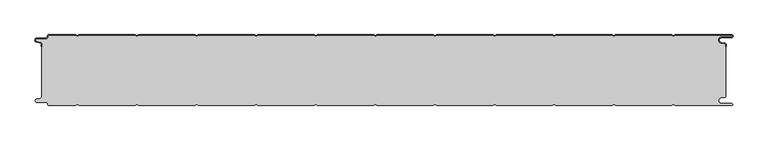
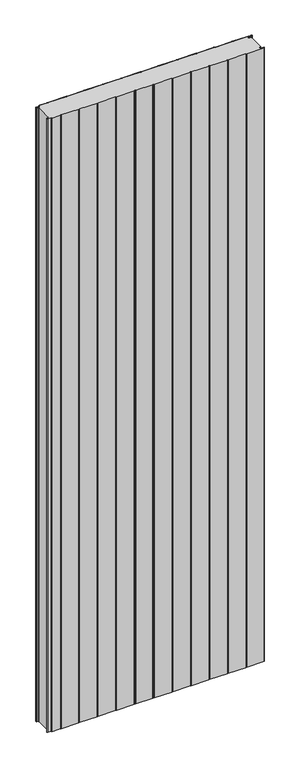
"""IFC4 building model written with IfcOpenShell, lengths in millimetres: plate geometry, PM1_Curtain-Panel_Perfil-Frigorífico : ACH_PM1_Panel-Acústico-Sectorización_120M."""

from ifc_helpers import new_model, si_unit, point, frame, frame_2d, origin, origin_with_axes, place, context, project, spatial, polyline, circle_curve, trimmed, segment, composite_curve, outline, extrude, source, transform, mapped, element, save
from ifc_brep_helpers import plane_surface, cylinder_surface, revolved_surface, advanced_brep


def plate_efb13df9(model_context):
    return source(origin(), model_context, "Body", "SolidModel", [
        advanced_brep(
        [(-575.0, -15.878557, 3500.0), (-575.0, -20.0, 3500.0), (-574.2, -20.0, 3500.0), (-574.2, -15.878557, 3500.0), (-576.370137, -13.1503208, 3500.0), (-582.529863, -11.728236, 3500.0), (-581.9, -6.2, 3500.0), (-566.4, -6.2, 3500.0), (-563.6, -3.4, 3500.0), (-563.6, -2.0, 3500.0), (-562.4, -0.8, 3500.0), (-517.3143588, -0.8, 3500.0), (-514.4, -2.482606, 3500.0), (-511.4856412, -0.8, 3500.0), (-417.3143588, -0.8, 3500.0), (-414.4, -2.482606, 3500.0), (-411.4856412, -0.8, 3500.0), (-317.3143588, -0.8, 3500.0), (-314.4, -2.482606, 3500.0), (-311.4856412, -0.8, 3500.0), (-217.3143588, -0.8, 3500.0), (-214.4, -2.482606, 3500.0), (-211.4856412, -0.8, 3500.0), (-117.3143588, -0.8, 3500.0), (-114.4, -2.482606, 3500.0), (-111.4856412, -0.8, 3500.0), (-17.3143588, -0.8, 3500.0), (-14.4, -2.482606, 3500.0), (-11.4856412, -0.8, 3500.0), (82.6856412, -0.8, 3500.0), (85.6, -2.482606, 3500.0), (88.5143588, -0.8, 3500.0), (182.6856412, -0.8, 3500.0), (185.6, -2.482606, 3500.0), (188.5143588, -0.8, 3500.0), (282.6856412, -0.8, 3500.0), (285.6, -2.482606, 3500.0), (288.5143588, -0.8, 3500.0), (382.6856412, -0.8, 3500.0), (385.6, -2.482606, 3500.0), (388.5143588, -0.8, 3500.0), (482.6856412, -0.8, 3500.0), (485.6, -2.482606, 3500.0), (488.5143588, -0.8, 3500.0), (583.1, -0.8, 3500.0), (583.1, -4.2, 3500.0), (566.1, -4.2, 3500.0), (565.2664884, -13.7270771, 3500.0), (571.7125669, -14.8636953, 3500.0), (573.2, -16.6363492, 3500.0), (573.2, -20.0, 3500.0), (574.0, -20.0, 3500.0), (574.0, -16.6363492, 3500.0), (571.8514855, -14.0758491, 3500.0), (565.405407, -12.939231, 3500.0), (566.1, -5.0, 3500.0), (583.1, -5.0, 3500.0), (585.6, -2.5, 3500.0), (583.1, 0.0, 3500.0), (488.2999995, 0.0, 3500.0), (485.6, -1.5588455, 3500.0), (482.9000005, 0.0, 3500.0), (388.2999995, 0.0, 3500.0), (385.6, -1.5588455, 3500.0), (382.9000005, 0.0, 3500.0), (288.2999995, 0.0, 3500.0), (285.6, -1.5588455, 3500.0), (282.9000005, 0.0, 3500.0), (188.2999995, 0.0, 3500.0), (185.6, -1.5588455, 3500.0), (182.9000005, 0.0, 3500.0), (88.2999995, 0.0, 3500.0), (85.6, -1.5588455, 3500.0), (82.9000005, 0.0, 3500.0), (-11.7000005, 0.0, 3500.0), (-14.4, -1.5588455, 3500.0), (-17.0999995, 0.0, 3500.0), (-111.7000005, 0.0, 3500.0), (-114.4, -1.5588455, 3500.0), (-117.0999995, 0.0, 3500.0), (-211.7000005, 0.0, 3500.0), (-214.4, -1.5588455, 3500.0), (-217.0999995, 0.0, 3500.0), (-311.7000005, 0.0, 3500.0), (-314.4, -1.5588455, 3500.0), (-317.0999995, 0.0, 3500.0), (-411.7000005, 0.0, 3500.0), (-414.4, -1.5588455, 3500.0), (-417.0999995, 0.0, 3500.0), (-511.7000005, 0.0, 3500.0), (-514.4, -1.5588455, 3500.0), (-517.0999995, 0.0, 3500.0), (-562.4, 0.0, 3500.0), (-564.4, -2.0, 3500.0), (-564.4, -3.4, 3500.0), (-566.4, -5.4, 3500.0), (-581.9, -5.4, 3500.0), (-582.7098239, -12.5077322, 3500.0), (-576.5500979, -13.929817, 3500.0), (-575.0, -15.878557, 0.0), (-576.5500978, -13.9298169, 0.0), (-582.7098239, -12.507732, 0.0), (-581.9, -5.4, 0.0), (-566.4, -5.4, 0.0), (-564.4, -3.4, 0.0), (-564.4, -2.0, 0.0), (-562.4, 0.0, 0.0), (-517.0999995, 0.0, 0.0), (-514.4, -1.5588455, 0.0), (-511.7000005, 0.0, 0.0), (-417.0999995, 0.0, 0.0), (-414.4, -1.5588455, 0.0), (-411.7000005, 0.0, 0.0), (-317.0999995, 0.0, 0.0), (-314.4, -1.5588455, 0.0), (-311.7000005, 0.0, 0.0), (-217.0999995, 0.0, 0.0), (-214.4, -1.5588455, 0.0), (-211.7000005, 0.0, 0.0), (-117.0999995, 0.0, 0.0), (-114.4, -1.5588455, 0.0), (-111.7000005, 0.0, 0.0), (-17.0999995, 0.0, 0.0), (-14.4, -1.5588455, 0.0), (-11.7000005, 0.0, 0.0), (82.9000005, 0.0, 0.0), (85.6, -1.5588455, 0.0), (88.2999995, 0.0, 0.0), (182.9000005, 0.0, 0.0), (185.6, -1.5588455, 0.0), (188.2999995, 0.0, 0.0), (282.9000005, 0.0, 0.0), (285.6, -1.5588455, 0.0), (288.2999995, 0.0, 0.0), (382.9000005, 0.0, 0.0), (385.6, -1.5588455, 0.0), (388.2999995, 0.0, 0.0), (482.9000005, 0.0, 0.0), (485.6, -1.5588455, 0.0), (488.2999995, 0.0, 0.0), (583.1, 0.0, 0.0), (585.6, -2.5, 0.0), (583.1, -5.0, 0.0), (566.1, -5.0, 0.0), (565.405407, -12.939231, 0.0), (571.8514855, -14.0758491, 0.0), (574.0, -16.6363492, 0.0), (574.0, -20.0, 0.0), (573.2, -20.0, 0.0), (573.2, -16.6363492, 0.0), (571.7125669, -14.8636953, 0.0), (565.2664884, -13.7270772, 0.0), (566.1, -4.2, 0.0), (583.1, -4.2, 0.0), (583.1, -0.8, 0.0), (488.5143588, -0.8, 0.0), (485.6, -2.482606, 0.0), (482.6856412, -0.8, 0.0), (388.5143588, -0.8, 0.0), (385.6, -2.482606, 0.0), (382.6856412, -0.8, 0.0), (288.5143588, -0.8, 0.0), (285.6, -2.482606, 0.0), (282.6856412, -0.8, 0.0), (188.5143588, -0.8, 0.0), (185.6, -2.482606, 0.0), (182.6856412, -0.8, 0.0), (88.5143588, -0.8, 0.0), (85.6, -2.482606, 0.0), (82.6856412, -0.8, 0.0), (-11.4856412, -0.8, 0.0), (-14.4, -2.482606, 0.0), (-17.3143588, -0.8, 0.0), (-111.4856412, -0.8, 0.0), (-114.4, -2.482606, 0.0), (-117.3143588, -0.8, 0.0), (-211.4856412, -0.8, 0.0), (-214.4, -2.482606, 0.0), (-217.3143588, -0.8, 0.0), (-311.4856412, -0.8, 0.0), (-314.4, -2.482606, 0.0), (-317.3143588, -0.8, 0.0), (-411.4856412, -0.8, 0.0), (-414.4, -2.482606, 0.0), (-417.3143588, -0.8, 0.0), (-511.4856412, -0.8, 0.0), (-514.4, -2.482606, 0.0), (-517.3143588, -0.8, 0.0), (-562.4, -0.8, 0.0), (-563.6, -2.0, 0.0), (-563.6, -3.4, 0.0), (-566.4, -6.2, 0.0), (-581.9, -6.2, 0.0), (-582.529863, -11.7282362, 0.0), (-576.370137, -13.150321, 0.0), (-574.2, -15.878557, 0.0), (-574.2, -20.0, 0.0), (-575.0, -20.0, 0.0)],
        [
            (0, 1),
            (1, 2),
            (2, 3),
            (3, 4, circle_curve(frame((-577.0, -15.878557, 3500.0), z_axis=(0.0, 0.0, 1.0), x_axis=(1.0, 0.0, 0.0)), 2.8)),
            (4, 5),
            (5, 6, circle_curve(frame((-581.9, -9.0, 3500.0), z_axis=(0.0, 0.0, -1.0), x_axis=(1.0, 0.0, 0.0)), 2.8)),
            (6, 7),
            (7, 8, circle_curve(frame((-566.4, -3.4, 3500.0), z_axis=(0.0, 0.0, 1.0), x_axis=(1.0, 0.0, 0.0)), 2.8)),
            (8, 9),
            (9, 10, circle_curve(frame((-562.4, -2.0, 3500.0), z_axis=(0.0, 0.0, -1.0), x_axis=(1.0, 0.0, 0.0)), 1.2)),
            (10, 11),
            (11, 12),
            (12, 13),
            (13, 14),
            (14, 15),
            (15, 16),
            (16, 17),
            (17, 18),
            (18, 19),
            (19, 20),
            (20, 21),
            (21, 22),
            (22, 23),
            (23, 24),
            (24, 25),
            (25, 26),
            (26, 27),
            (27, 28),
            (28, 29),
            (29, 30),
            (30, 31),
            (31, 32),
            (32, 33),
            (33, 34),
            (34, 35),
            (35, 36),
            (36, 37),
            (37, 38),
            (38, 39),
            (39, 40),
            (40, 41),
            (41, 42),
            (42, 43),
            (43, 44),
            (44, 45, circle_curve(frame((583.1, -2.5, 3500.0), z_axis=(0.0, 0.0, -1.0), x_axis=(1.0, 0.0, 0.0)), 1.7)),
            (45, 46),
            (46, 47, circle_curve(frame((566.1, -9.0, 3500.0), z_axis=(0.0, 0.0, 1.0), x_axis=(1.0, 0.0, 0.0)), 4.8)),
            (47, 48),
            (48, 49, circle_curve(frame((571.4, -16.6363492, 3500.0), z_axis=(0.0, 0.0, -1.0), x_axis=(1.0, 0.0, 0.0)), 1.8)),
            (49, 50),
            (50, 51),
            (51, 52),
            (52, 53, circle_curve(frame((571.4, -16.6363492, 3500.0), z_axis=(0.0, 0.0, 1.0), x_axis=(1.0, 0.0, 0.0)), 2.6)),
            (53, 54),
            (54, 55, circle_curve(frame((566.1, -9.0, 3500.0), z_axis=(0.0, 0.0, -1.0), x_axis=(1.0, 0.0, 0.0)), 4.0)),
            (55, 56),
            (56, 57, circle_curve(frame((583.1, -2.5, 3500.0), z_axis=(0.0, 0.0, 1.0), x_axis=(1.0, 0.0, 0.0)), 2.5)),
            (57, 58, circle_curve(frame((583.1, -2.5, 3500.0), z_axis=(0.0, 0.0, 1.0), x_axis=(1.0, 0.0, 0.0)), 2.5)),
            (58, 59),
            (59, 60),
            (60, 61),
            (61, 62),
            (62, 63),
            (63, 64),
            (64, 65),
            (65, 66),
            (66, 67),
            (67, 68),
            (68, 69),
            (69, 70),
            (70, 71),
            (71, 72),
            (72, 73),
            (73, 74),
            (74, 75),
            (75, 76),
            (76, 77),
            (77, 78),
            (78, 79),
            (79, 80),
            (80, 81),
            (81, 82),
            (82, 83),
            (83, 84),
            (84, 85),
            (85, 86),
            (86, 87),
            (87, 88),
            (88, 89),
            (89, 90),
            (90, 91),
            (91, 92),
            (92, 93, circle_curve(frame((-562.4, -2.0, 3500.0), z_axis=(0.0, 0.0, 1.0), x_axis=(1.0, 0.0, 0.0)), 2.0)),
            (93, 94),
            (94, 95, circle_curve(frame((-566.4, -3.4, 3500.0), z_axis=(0.0, 0.0, -1.0), x_axis=(1.0, 0.0, 0.0)), 2.0)),
            (95, 96),
            (96, 97, circle_curve(frame((-581.9, -9.0, 3500.0), z_axis=(0.0, 0.0, 1.0), x_axis=(1.0, 0.0, 0.0)), 3.6)),
            (97, 98),
            (98, 0, circle_curve(frame((-577.0, -15.878557, 3500.0), z_axis=(0.0, 0.0, -1.0), x_axis=(1.0, 0.0, 0.0)), 2.0)),
            (99, 100, circle_curve(frame((-577.0, -15.878557, 0.0), z_axis=(0.0, 0.0, 1.0), x_axis=(1.0, 0.0, 0.0)), 2.0)),
            (100, 101),
            (101, 102, circle_curve(frame((-581.9, -9.0, 0.0), z_axis=(0.0, 0.0, -1.0), x_axis=(1.0, 0.0, 0.0)), 3.6)),
            (102, 103),
            (103, 104, circle_curve(frame((-566.4, -3.4, 0.0), z_axis=(0.0, 0.0, 1.0), x_axis=(1.0, 0.0, 0.0)), 2.0)),
            (104, 105),
            (105, 106, circle_curve(frame((-562.4, -2.0, 0.0), z_axis=(0.0, 0.0, -1.0), x_axis=(1.0, 0.0, 0.0)), 2.0)),
            (106, 107),
            (107, 108),
            (108, 109),
            (109, 110),
            (110, 111),
            (111, 112),
            (112, 113),
            (113, 114),
            (114, 115),
            (115, 116),
            (116, 117),
            (117, 118),
            (118, 119),
            (119, 120),
            (120, 121),
            (121, 122),
            (122, 123),
            (123, 124),
            (124, 125),
            (125, 126),
            (126, 127),
            (127, 128),
            (128, 129),
            (129, 130),
            (130, 131),
            (131, 132),
            (132, 133),
            (133, 134),
            (134, 135),
            (135, 136),
            (136, 137),
            (137, 138),
            (138, 139),
            (139, 140),
            (140, 141, circle_curve(frame((583.1, -2.5, 0.0), z_axis=(0.0, 0.0, -1.0), x_axis=(1.0, 0.0, 0.0)), 2.5)),
            (141, 142, circle_curve(frame((583.1, -2.5, 0.0), z_axis=(0.0, 0.0, -1.0), x_axis=(1.0, 0.0, 0.0)), 2.5)),
            (142, 143),
            (143, 144, circle_curve(frame((566.1, -9.0, 0.0), z_axis=(0.0, 0.0, 1.0), x_axis=(1.0, 0.0, 0.0)), 4.0)),
            (144, 145),
            (145, 146, circle_curve(frame((571.4, -16.6363492, 0.0), z_axis=(0.0, 0.0, -1.0), x_axis=(1.0, 0.0, 0.0)), 2.6)),
            (146, 147),
            (147, 148),
            (148, 149),
            (149, 150, circle_curve(frame((571.4, -16.6363492, 0.0), z_axis=(0.0, 0.0, 1.0), x_axis=(1.0, 0.0, 0.0)), 1.8)),
            (150, 151),
            (151, 152, circle_curve(frame((566.1, -9.0, 0.0), z_axis=(0.0, 0.0, -1.0), x_axis=(1.0, 0.0, 0.0)), 4.8)),
            (152, 153),
            (153, 154, circle_curve(frame((583.1, -2.5, 0.0), z_axis=(0.0, 0.0, 1.0), x_axis=(1.0, 0.0, 0.0)), 1.7)),
            (154, 155),
            (155, 156),
            (156, 157),
            (157, 158),
            (158, 159),
            (159, 160),
            (160, 161),
            (161, 162),
            (162, 163),
            (163, 164),
            (164, 165),
            (165, 166),
            (166, 167),
            (167, 168),
            (168, 169),
            (169, 170),
            (170, 171),
            (171, 172),
            (172, 173),
            (173, 174),
            (174, 175),
            (175, 176),
            (176, 177),
            (177, 178),
            (178, 179),
            (179, 180),
            (180, 181),
            (181, 182),
            (182, 183),
            (183, 184),
            (184, 185),
            (185, 186),
            (186, 187),
            (187, 188),
            (188, 189, circle_curve(frame((-562.4, -2.0, 0.0), z_axis=(0.0, 0.0, 1.0), x_axis=(1.0, 0.0, 0.0)), 1.2)),
            (189, 190),
            (190, 191, circle_curve(frame((-566.4, -3.4, 0.0), z_axis=(0.0, 0.0, -1.0), x_axis=(1.0, 0.0, 0.0)), 2.8)),
            (191, 192),
            (192, 193, circle_curve(frame((-581.9, -9.0, 0.0), z_axis=(0.0, 0.0, 1.0), x_axis=(1.0, 0.0, 0.0)), 2.8)),
            (193, 194),
            (194, 195, circle_curve(frame((-577.0, -15.878557, 0.0), z_axis=(0.0, 0.0, -1.0), x_axis=(1.0, 0.0, 0.0)), 2.8)),
            (195, 196),
            (196, 197),
            (197, 99),
            (0, 99),
            (197, 1),
            (196, 2),
            (195, 3),
            (194, 4),
            (193, 5),
            (192, 6),
            (191, 7),
            (190, 8),
            (189, 9),
            (188, 10),
            (187, 11),
            (186, 12),
            (185, 13),
            (184, 14),
            (183, 15),
            (182, 16),
            (181, 17),
            (180, 18),
            (179, 19),
            (178, 20),
            (177, 21),
            (176, 22),
            (175, 23),
            (174, 24),
            (173, 25),
            (172, 26),
            (171, 27),
            (170, 28),
            (169, 29),
            (168, 30),
            (167, 31),
            (166, 32),
            (165, 33),
            (164, 34),
            (163, 35),
            (162, 36),
            (161, 37),
            (160, 38),
            (159, 39),
            (158, 40),
            (157, 41),
            (156, 42),
            (155, 43),
            (154, 44),
            (153, 45),
            (152, 46),
            (151, 47),
            (150, 48),
            (149, 49),
            (148, 50),
            (147, 51),
            (146, 52),
            (145, 53),
            (144, 54),
            (143, 55),
            (142, 56),
            (140, 58),
            (139, 59),
            (138, 60),
            (137, 61),
            (136, 62),
            (135, 63),
            (134, 64),
            (133, 65),
            (132, 66),
            (131, 67),
            (130, 68),
            (129, 69),
            (128, 70),
            (127, 71),
            (126, 72),
            (125, 73),
            (124, 74),
            (123, 75),
            (122, 76),
            (121, 77),
            (120, 78),
            (119, 79),
            (118, 80),
            (117, 81),
            (116, 82),
            (115, 83),
            (114, 84),
            (113, 85),
            (112, 86),
            (111, 87),
            (110, 88),
            (109, 89),
            (108, 90),
            (107, 91),
            (106, 92),
            (105, 93),
            (104, 94),
            (103, 95),
            (102, 96),
            (101, 97),
            (100, 98),
        ],
        [
            plane_surface(frame((-575.0, 0.0, 3500.0), z_axis=(0.0, 0.0, 1.0), x_axis=(0.0, 1.0, 0.0))),
            plane_surface(frame((-575.0, 0.0, 0.0), z_axis=(0.0, 0.0, -1.0), x_axis=(0.0, 1.0, 0.0))),
            plane_surface(frame((-575.0, -15.878557, 3500.0), z_axis=(-1.0, 0.0, 0.0), x_axis=(0.0, 0.0, -1.0))),
            plane_surface(frame((-575.0, -20.0, 3500.0), z_axis=(0.0, -1.0, 0.0), x_axis=(0.0, 0.0, -1.0))),
            plane_surface(frame((-574.2, -20.0, 3500.0), z_axis=(1.0, 0.0, 0.0), x_axis=(0.0, 0.0, -1.0))),
            cylinder_surface(frame((-577.0, -15.878557, 3500.0), z_axis=(0.0, 0.0, 1.0), x_axis=(1.0, 0.0, 0.0)), 2.8),
            plane_surface(frame((-576.370137, -13.150321, 3500.0), z_axis=(0.22495108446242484, 0.9743700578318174, 0.0), x_axis=(0.0, 0.0, -1.0))),
            revolved_surface(polyline([(-579.1, -9.0, 0.0), (-579.1, -9.0, 3500.0)]), (-581.9, -9.0, 3500.0), (0.0, 0.0, -1.0)),
            plane_surface(frame((-581.9, -6.2, 3500.0), z_axis=(0.0, -1.0, 0.0), x_axis=(0.0, 0.0, -1.0))),
            cylinder_surface(frame((-566.4, -3.4, 3500.0), z_axis=(0.0, 0.0, 1.0), x_axis=(1.0, 0.0, 0.0)), 2.8),
            plane_surface(frame((-563.6, -3.4, 3500.0), z_axis=(1.0, 0.0, 0.0), x_axis=(0.0, 0.0, -1.0))),
            revolved_surface(polyline([(-561.1999999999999, -2.0, 0.0), (-561.1999999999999, -2.0, 3500.0)]), (-562.4, -2.0, 3500.0), (0.0, 0.0, -1.0)),
            plane_surface(frame((-562.4, -0.8, 3500.0), z_axis=(0.0, -1.0, 0.0), x_axis=(0.0, 0.0, -1.0))),
            plane_surface(frame((-517.3143588, -0.8, 3500.0), z_axis=(-0.5000000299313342, -0.8660253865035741, 0.0), x_axis=(0.0, 0.0, -1.0))),
            plane_surface(frame((-514.4, -2.482606, 3500.0), z_axis=(0.5000000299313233, -0.8660253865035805, 0.0), x_axis=(0.0, 0.0, -1.0))),
            plane_surface(frame((-511.4856412, -0.8, 3500.0), z_axis=(0.0, -1.0, 0.0), x_axis=(0.0, 0.0, -1.0))),
            plane_surface(frame((-417.3143588, -0.8, 3500.0), z_axis=(-0.5000000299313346, -0.8660253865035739, 0.0), x_axis=(0.0, 0.0, -1.0))),
            plane_surface(frame((-414.4, -2.482606, 3500.0), z_axis=(0.5000000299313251, -0.8660253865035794, 0.0), x_axis=(0.0, 0.0, -1.0))),
            plane_surface(frame((-411.4856412, -0.8, 3500.0), z_axis=(0.0, -1.0, 0.0), x_axis=(0.0, 0.0, -1.0))),
            plane_surface(frame((-317.3143588, -0.8, 3500.0), z_axis=(-0.5000000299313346, -0.866025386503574, 0.0), x_axis=(0.0, 0.0, -1.0))),
            plane_surface(frame((-314.4, -2.482606, 3500.0), z_axis=(0.5000000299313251, -0.8660253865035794, 0.0), x_axis=(0.0, 0.0, -1.0))),
            plane_surface(frame((-311.4856412, -0.8, 3500.0), z_axis=(0.0, -1.0, 0.0), x_axis=(0.0, 0.0, -1.0))),
            plane_surface(frame((-217.3143588, -0.8, 3500.0), z_axis=(-0.5000000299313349, -0.8660253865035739, 0.0), x_axis=(0.0, 0.0, -1.0))),
            plane_surface(frame((-214.4, -2.482606, 3500.0), z_axis=(0.5000000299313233, -0.8660253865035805, 0.0), x_axis=(0.0, 0.0, -1.0))),
            plane_surface(frame((-211.4856412, -0.8, 3500.0), z_axis=(0.0, -1.0, 0.0), x_axis=(0.0, 0.0, -1.0))),
            plane_surface(frame((-117.3143588, -0.8, 3500.0), z_axis=(-0.5000000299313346, -0.866025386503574, 0.0), x_axis=(0.0, 0.0, -1.0))),
            plane_surface(frame((-114.4, -2.482606, 3500.0), z_axis=(0.5000000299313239, -0.8660253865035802, 0.0), x_axis=(0.0, 0.0, -1.0))),
            plane_surface(frame((-111.4856412, -0.8, 3500.0), z_axis=(0.0, -1.0, 0.0), x_axis=(0.0, 0.0, -1.0))),
            plane_surface(frame((-17.3143588, -0.8, 3500.0), z_axis=(-0.5000000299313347, -0.8660253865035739, 0.0), x_axis=(0.0, 0.0, -1.0))),
            plane_surface(frame((-14.4, -2.482606, 3500.0), z_axis=(0.5000000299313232, -0.8660253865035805, 0.0), x_axis=(0.0, 0.0, -1.0))),
            plane_surface(frame((-11.4856412, -0.8, 3500.0), z_axis=(0.0, -1.0, 0.0), x_axis=(0.0, 0.0, -1.0))),
            plane_surface(frame((82.6856412, -0.8, 3500.0), z_axis=(-0.5000000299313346, -0.866025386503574, 0.0), x_axis=(0.0, 0.0, -1.0))),
            plane_surface(frame((85.6, -2.482606, 3500.0), z_axis=(0.5000000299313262, -0.8660253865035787, 0.0), x_axis=(0.0, 0.0, -1.0))),
            plane_surface(frame((88.5143588, -0.8, 3500.0), z_axis=(0.0, -1.0, 0.0), x_axis=(0.0, 0.0, -1.0))),
            plane_surface(frame((182.6856412, -0.8, 3500.0), z_axis=(-0.5000000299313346, -0.8660253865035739, 0.0), x_axis=(0.0, 0.0, -1.0))),
            plane_surface(frame((185.6, -2.482606, 3500.0), z_axis=(0.5000000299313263, -0.8660253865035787, 0.0), x_axis=(0.0, 0.0, -1.0))),
            plane_surface(frame((188.5143588, -0.8, 3500.0), z_axis=(0.0, -1.0, 0.0), x_axis=(0.0, 0.0, -1.0))),
            plane_surface(frame((282.6856412, -0.8, 3500.0), z_axis=(-0.5000000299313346, -0.8660253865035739, 0.0), x_axis=(0.0, 0.0, -1.0))),
            plane_surface(frame((285.6, -2.482606, 3500.0), z_axis=(0.5000000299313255, -0.8660253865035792, 0.0), x_axis=(0.0, 0.0, -1.0))),
            plane_surface(frame((288.5143588, -0.8, 3500.0), z_axis=(0.0, -1.0, 0.0), x_axis=(0.0, 0.0, -1.0))),
            plane_surface(frame((382.6856412, -0.8, 3500.0), z_axis=(-0.5000000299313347, -0.8660253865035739, 0.0), x_axis=(0.0, 0.0, -1.0))),
            plane_surface(frame((385.6, -2.482606, 3500.0), z_axis=(0.5000000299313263, -0.8660253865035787, 0.0), x_axis=(0.0, 0.0, -1.0))),
            plane_surface(frame((388.5143588, -0.8, 3500.0), z_axis=(0.0, -1.0, 0.0), x_axis=(0.0, 0.0, -1.0))),
            plane_surface(frame((482.6856412, -0.8, 3500.0), z_axis=(-0.5000000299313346, -0.866025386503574, 0.0), x_axis=(0.0, 0.0, -1.0))),
            plane_surface(frame((485.6, -2.482606, 3500.0), z_axis=(0.5000000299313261, -0.8660253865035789, 0.0), x_axis=(0.0, 0.0, -1.0))),
            plane_surface(frame((535.6, -0.8, 3500.0), z_axis=(0.0, -1.0, 0.0), x_axis=(0.0, 0.0, -1.0))),
            revolved_surface(polyline([(584.8000000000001, -2.5, 0.0), (584.8000000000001, -2.5, 3500.0)]), (583.1, -2.5, 3500.0), (0.0, 0.0, -1.0)),
            plane_surface(frame((583.1, -4.2, 3500.0), z_axis=(0.0, 1.0, 0.0), x_axis=(0.0, 0.0, -1.0))),
            cylinder_surface(frame((566.1, -9.0, 3500.0), z_axis=(0.0, 0.0, 1.0), x_axis=(1.0, 0.0, 0.0)), 4.8),
            plane_surface(frame((565.2664884, -13.7270772, 3500.0), z_axis=(-0.17364825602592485, -0.9848077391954, 0.0), x_axis=(0.0, 0.0, -1.0))),
            revolved_surface(polyline([(573.1999999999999, -16.6363492, 0.0), (573.1999999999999, -16.6363492, 3500.0)]), (571.4, -16.6363492, 3500.0), (0.0, 0.0, -1.0)),
            plane_surface(frame((573.2, -16.6363492, 3500.0), z_axis=(-1.0, 0.0, 0.0), x_axis=(0.0, 0.0, -1.0))),
            plane_surface(frame((573.2, -20.0, 3500.0), z_axis=(0.0, -1.0, 0.0), x_axis=(0.0, 0.0, -1.0))),
            plane_surface(frame((574.0, -20.0, 3500.0), z_axis=(1.0, 0.0, 0.0), x_axis=(0.0, 0.0, -1.0))),
            cylinder_surface(frame((571.4, -16.6363492, 3500.0), z_axis=(0.0, 0.0, 1.0), x_axis=(1.0, 0.0, 0.0)), 2.6),
            plane_surface(frame((571.8514855, -14.0758491, 3500.0), z_axis=(0.1736482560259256, 0.9848077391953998, 0.0), x_axis=(0.0, 0.0, -1.0))),
            revolved_surface(polyline([(570.1, -9.0, 0.0), (570.1, -9.0, 3500.0)]), (566.1, -9.0, 3500.0), (0.0, 0.0, -1.0)),
            plane_surface(frame((566.1, -5.0, 3500.0), z_axis=(0.0, -1.0, 0.0), x_axis=(0.0, 0.0, -1.0))),
            cylinder_surface(frame((583.1, -2.5, 3500.0), z_axis=(0.0, 0.0, 1.0), x_axis=(1.0, 0.0, 0.0)), 2.5),
            plane_surface(frame((535.6, 0.0, 3500.0), z_axis=(0.0, 1.0, 0.0), x_axis=(0.0, 0.0, -1.0))),
            plane_surface(frame((488.2999995, 0.0, 3500.0), z_axis=(-0.5000000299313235, 0.8660253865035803, 0.0), x_axis=(0.0, 0.0, -1.0))),
            plane_surface(frame((485.6, -1.5588455, 3500.0), z_axis=(0.5000000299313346, 0.8660253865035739, 0.0), x_axis=(0.0, 0.0, -1.0))),
            plane_surface(frame((482.9000005, 0.0, 3500.0), z_axis=(0.0, 1.0, 0.0), x_axis=(0.0, 0.0, -1.0))),
            plane_surface(frame((388.2999995, 0.0, 3500.0), z_axis=(-0.5000000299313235, 0.8660253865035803, 0.0), x_axis=(0.0, 0.0, -1.0))),
            plane_surface(frame((385.6, -1.5588455, 3500.0), z_axis=(0.5000000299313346, 0.8660253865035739, 0.0), x_axis=(0.0, 0.0, -1.0))),
            plane_surface(frame((382.9000005, 0.0, 3500.0), z_axis=(0.0, 1.0, 0.0), x_axis=(0.0, 0.0, -1.0))),
            plane_surface(frame((288.2999995, 0.0, 3500.0), z_axis=(-0.5000000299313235, 0.8660253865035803, 0.0), x_axis=(0.0, 0.0, -1.0))),
            plane_surface(frame((285.6, -1.5588455, 3500.0), z_axis=(0.5000000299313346, 0.8660253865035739, 0.0), x_axis=(0.0, 0.0, -1.0))),
            plane_surface(frame((282.9000005, 0.0, 3500.0), z_axis=(0.0, 1.0, 0.0), x_axis=(0.0, 0.0, -1.0))),
            plane_surface(frame((188.2999995, 0.0, 3500.0), z_axis=(-0.5000000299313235, 0.8660253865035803, 0.0), x_axis=(0.0, 0.0, -1.0))),
            plane_surface(frame((185.6, -1.5588455, 3500.0), z_axis=(0.5000000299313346, 0.8660253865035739, 0.0), x_axis=(0.0, 0.0, -1.0))),
            plane_surface(frame((182.9000005, 0.0, 3500.0), z_axis=(0.0, 1.0, 0.0), x_axis=(0.0, 0.0, -1.0))),
            plane_surface(frame((88.2999995, 0.0, 3500.0), z_axis=(-0.5000000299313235, 0.8660253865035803, 0.0), x_axis=(0.0, 0.0, -1.0))),
            plane_surface(frame((85.6, -1.5588455, 3500.0), z_axis=(0.5000000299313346, 0.8660253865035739, 0.0), x_axis=(0.0, 0.0, -1.0))),
            plane_surface(frame((82.9000005, 0.0, 3500.0), z_axis=(0.0, 1.0, 0.0), x_axis=(0.0, 0.0, -1.0))),
            plane_surface(frame((-11.7000005, 0.0, 3500.0), z_axis=(-0.5000000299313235, 0.8660253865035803, 0.0), x_axis=(0.0, 0.0, -1.0))),
            plane_surface(frame((-14.4, -1.5588455, 3500.0), z_axis=(0.5000000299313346, 0.8660253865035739, 0.0), x_axis=(0.0, 0.0, -1.0))),
            plane_surface(frame((-17.0999995, 0.0, 3500.0), z_axis=(0.0, 1.0, 0.0), x_axis=(0.0, 0.0, -1.0))),
            plane_surface(frame((-111.7000005, 0.0, 3500.0), z_axis=(-0.5000000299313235, 0.8660253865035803, 0.0), x_axis=(0.0, 0.0, -1.0))),
            plane_surface(frame((-114.4, -1.5588455, 3500.0), z_axis=(0.5000000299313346, 0.8660253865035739, 0.0), x_axis=(0.0, 0.0, -1.0))),
            plane_surface(frame((-117.0999995, 0.0, 3500.0), z_axis=(0.0, 1.0, 0.0), x_axis=(0.0, 0.0, -1.0))),
            plane_surface(frame((-211.7000005, 0.0, 3500.0), z_axis=(-0.5000000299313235, 0.8660253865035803, 0.0), x_axis=(0.0, 0.0, -1.0))),
            plane_surface(frame((-214.4, -1.5588455, 3500.0), z_axis=(0.5000000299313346, 0.8660253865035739, 0.0), x_axis=(0.0, 0.0, -1.0))),
            plane_surface(frame((-217.0999995, 0.0, 3500.0), z_axis=(0.0, 1.0, 0.0), x_axis=(0.0, 0.0, -1.0))),
            plane_surface(frame((-311.7000005, 0.0, 3500.0), z_axis=(-0.5000000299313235, 0.8660253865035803, 0.0), x_axis=(0.0, 0.0, -1.0))),
            plane_surface(frame((-314.4, -1.5588455, 3500.0), z_axis=(0.5000000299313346, 0.8660253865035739, 0.0), x_axis=(0.0, 0.0, -1.0))),
            plane_surface(frame((-317.0999995, 0.0, 3500.0), z_axis=(0.0, 1.0, 0.0), x_axis=(0.0, 0.0, -1.0))),
            plane_surface(frame((-411.7000005, 0.0, 3500.0), z_axis=(-0.5000000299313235, 0.8660253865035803, 0.0), x_axis=(0.0, 0.0, -1.0))),
            plane_surface(frame((-414.4, -1.5588455, 3500.0), z_axis=(0.5000000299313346, 0.8660253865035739, 0.0), x_axis=(0.0, 0.0, -1.0))),
            plane_surface(frame((-417.0999995, 0.0, 3500.0), z_axis=(0.0, 1.0, 0.0), x_axis=(0.0, 0.0, -1.0))),
            plane_surface(frame((-511.7000005, 0.0, 3500.0), z_axis=(-0.5000000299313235, 0.8660253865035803, 0.0), x_axis=(0.0, 0.0, -1.0))),
            plane_surface(frame((-514.4, -1.5588455, 3500.0), z_axis=(0.5000000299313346, 0.8660253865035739, 0.0), x_axis=(0.0, 0.0, -1.0))),
            plane_surface(frame((-517.0999995, 0.0, 3500.0), z_axis=(0.0, 1.0, 0.0), x_axis=(0.0, 0.0, -1.0))),
            cylinder_surface(frame((-562.4, -2.0, 3500.0), z_axis=(0.0, 0.0, 1.0), x_axis=(1.0, 0.0, 0.0)), 2.0),
            plane_surface(frame((-564.4, -2.0, 3500.0), z_axis=(-1.0, 0.0, 0.0), x_axis=(0.0, 0.0, -1.0))),
            revolved_surface(polyline([(-564.4, -3.4, 0.0), (-564.4, -3.4, 3500.0)]), (-566.4, -3.4, 3500.0), (0.0, 0.0, -1.0)),
            plane_surface(frame((-566.4, -5.4, 3500.0), z_axis=(0.0, 1.0, 0.0), x_axis=(0.0, 0.0, -1.0))),
            cylinder_surface(frame((-581.9, -9.0, 3500.0), z_axis=(0.0, 0.0, 1.0), x_axis=(1.0, 0.0, 0.0)), 3.6),
            plane_surface(frame((-582.7098239, -12.507732, 3500.0), z_axis=(-0.22495108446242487, -0.9743700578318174, 0.0), x_axis=(0.0, 0.0, -1.0))),
            revolved_surface(polyline([(-575.0, -15.878557, 0.0), (-575.0, -15.878557, 3500.0)]), (-577.0, -15.878557, 3500.0), (0.0, 0.0, -1.0)),
        ],
        [
            (0, [[1, 2, 3, 4, 5, 6, 7, 8, 9, 10, 11, 12, 13, 14, 15, 16, 17, 18, 19, 20, 21, 22, 23, 24, 25, 26, 27, 28, 29, 30, 31, 32, 33, 34, 35, 36, 37, 38, 39, 40, 41, 42, 43, 44, 45, 46, 47, 48, 49, 50, 51, 52, 53, 54, 55, 56, 57, 58, 59, 60, 61, 62, 63, 64, 65, 66, 67, 68, 69, 70, 71, 72, 73, 74, 75, 76, 77, 78, 79, 80, 81, 82, 83, 84, 85, 86, 87, 88, 89, 90, 91, 92, 93, 94, 95, 96, 97, 98, 99]]),
            (1, [[100, 101, 102, 103, 104, 105, 106, 107, 108, 109, 110, 111, 112, 113, 114, 115, 116, 117, 118, 119, 120, 121, 122, 123, 124, 125, 126, 127, 128, 129, 130, 131, 132, 133, 134, 135, 136, 137, 138, 139, 140, 141, 142, 143, 144, 145, 146, 147, 148, 149, 150, 151, 152, 153, 154, 155, 156, 157, 158, 159, 160, 161, 162, 163, 164, 165, 166, 167, 168, 169, 170, 171, 172, 173, 174, 175, 176, 177, 178, 179, 180, 181, 182, 183, 184, 185, 186, 187, 188, 189, 190, 191, 192, 193, 194, 195, 196, 197, 198]]),
            (2, [[-1, 199, -198, 200]]),
            (3, [[-2, -200, -197, 201]]),
            (4, [[-3, -201, -196, 202]]),
            (5, [[-4, -202, -195, 203]]),
            (6, [[-5, -203, -194, 204]]),
            (7, [[-6, -204, -193, 205]]),
            (8, [[-7, -205, -192, 206]]),
            (9, [[-8, -206, -191, 207]]),
            (10, [[-9, -207, -190, 208]]),
            (11, [[-10, -208, -189, 209]]),
            (12, [[-11, -209, -188, 210]]),
            (13, [[-12, -210, -187, 211]]),
            (14, [[-13, -211, -186, 212]]),
            (15, [[-14, -212, -185, 213]]),
            (16, [[-15, -213, -184, 214]]),
            (17, [[-16, -214, -183, 215]]),
            (18, [[-17, -215, -182, 216]]),
            (19, [[-18, -216, -181, 217]]),
            (20, [[-19, -217, -180, 218]]),
            (21, [[-20, -218, -179, 219]]),
            (22, [[-21, -219, -178, 220]]),
            (23, [[-22, -220, -177, 221]]),
            (24, [[-23, -221, -176, 222]]),
            (25, [[-24, -222, -175, 223]]),
            (26, [[-25, -223, -174, 224]]),
            (27, [[-26, -224, -173, 225]]),
            (28, [[-27, -225, -172, 226]]),
            (29, [[-28, -226, -171, 227]]),
            (30, [[-29, -227, -170, 228]]),
            (31, [[-30, -228, -169, 229]]),
            (32, [[-31, -229, -168, 230]]),
            (33, [[-32, -230, -167, 231]]),
            (34, [[-33, -231, -166, 232]]),
            (35, [[-34, -232, -165, 233]]),
            (36, [[-35, -233, -164, 234]]),
            (37, [[-36, -234, -163, 235]]),
            (38, [[-37, -235, -162, 236]]),
            (39, [[-38, -236, -161, 237]]),
            (40, [[-39, -237, -160, 238]]),
            (41, [[-40, -238, -159, 239]]),
            (42, [[-41, -239, -158, 240]]),
            (43, [[-42, -240, -157, 241]]),
            (44, [[-43, -241, -156, 242]]),
            (45, [[-44, -242, -155, 243]]),
            (46, [[-45, -243, -154, 244]]),
            (47, [[-46, -244, -153, 245]]),
            (48, [[-47, -245, -152, 246]]),
            (49, [[-48, -246, -151, 247]]),
            (50, [[-49, -247, -150, 248]]),
            (51, [[-50, -248, -149, 249]]),
            (52, [[-51, -249, -148, 250]]),
            (53, [[-52, -250, -147, 251]]),
            (54, [[-53, -251, -146, 252]]),
            (55, [[-54, -252, -145, 253]]),
            (56, [[-55, -253, -144, 254]]),
            (57, [[-56, -254, -143, 255]]),
            (58, [[-255, -142, -141, 256, -58, -57]]),
            (59, [[-59, -256, -140, 257]]),
            (60, [[-60, -257, -139, 258]]),
            (61, [[-61, -258, -138, 259]]),
            (62, [[-62, -259, -137, 260]]),
            (63, [[-63, -260, -136, 261]]),
            (64, [[-64, -261, -135, 262]]),
            (65, [[-65, -262, -134, 263]]),
            (66, [[-66, -263, -133, 264]]),
            (67, [[-67, -264, -132, 265]]),
            (68, [[-68, -265, -131, 266]]),
            (69, [[-69, -266, -130, 267]]),
            (70, [[-70, -267, -129, 268]]),
            (71, [[-71, -268, -128, 269]]),
            (72, [[-72, -269, -127, 270]]),
            (73, [[-73, -270, -126, 271]]),
            (74, [[-74, -271, -125, 272]]),
            (75, [[-75, -272, -124, 273]]),
            (76, [[-76, -273, -123, 274]]),
            (77, [[-77, -274, -122, 275]]),
            (78, [[-78, -275, -121, 276]]),
            (79, [[-79, -276, -120, 277]]),
            (80, [[-80, -277, -119, 278]]),
            (81, [[-81, -278, -118, 279]]),
            (82, [[-82, -279, -117, 280]]),
            (83, [[-83, -280, -116, 281]]),
            (84, [[-84, -281, -115, 282]]),
            (85, [[-85, -282, -114, 283]]),
            (86, [[-86, -283, -113, 284]]),
            (87, [[-87, -284, -112, 285]]),
            (88, [[-88, -285, -111, 286]]),
            (89, [[-89, -286, -110, 287]]),
            (90, [[-90, -287, -109, 288]]),
            (91, [[-91, -288, -108, 289]]),
            (92, [[-92, -289, -107, 290]]),
            (93, [[-93, -290, -106, 291]]),
            (94, [[-94, -291, -105, 292]]),
            (95, [[-95, -292, -104, 293]]),
            (96, [[-96, -293, -103, 294]]),
            (97, [[-97, -294, -102, 295]]),
            (98, [[-98, -295, -101, 296]]),
            (99, [[-99, -296, -100, -199]]),
        ],
    ),
        extrude(outline(composite_curve([segment(polyline([(-574.2, -104.1214426), (-574.2, -15.8785573)]), True, "CONTINUOUS"), segment(trimmed(circle_curve(frame_2d((-577.0, -15.8785573)), 2.8), [point((-574.2, -15.8785573))], [point((-576.370137, -13.1503212))], True, "CARTESIAN"), True, "CONTINUOUS"), segment(polyline([(-576.370137, -13.1503212), (-582.5298631, -11.7282362)]), True, "CONTINUOUS"), segment(trimmed(circle_curve(frame_2d((-581.9, -9.0)), 2.8), [point((-582.5298631, -11.7282362))], [point((-581.9, -6.2))], False, "CARTESIAN"), True, "CONTINUOUS"), segment(polyline([(-581.9, -6.2), (-566.4000001, -6.2)]), True, "CONTINUOUS"), segment(trimmed(circle_curve(frame_2d((-566.4000001, -3.4)), 2.8), [point((-566.4000001, -6.2))], [point((-563.6000001, -3.4))], True, "CARTESIAN"), True, "CONTINUOUS"), segment(polyline([(-563.6000001, -3.4), (-563.6000001, -2.0)]), True, "CONTINUOUS"), segment(trimmed(circle_curve(frame_2d((-562.4000001, -2.0)), 1.2), [point((-563.6000001, -2.0))], [point((-562.4000001, -0.8))], False, "CARTESIAN"), True, "CONTINUOUS"), segment(polyline([(-562.4000001, -0.8), (-517.3143589, -0.8), (-514.4000001, -2.482606), (-511.4856412, -0.8), (-417.3143589, -0.8), (-414.4000001, -2.482606), (-411.4856412, -0.8), (-317.3143589, -0.8), (-314.4000001, -2.482606), (-311.4856412, -0.8), (-217.3143589, -0.8), (-214.4000001, -2.482606), (-211.4856412, -0.8), (-117.3143589, -0.8), (-114.4000001, -2.482606), (-111.4856412, -0.8), (-17.3143589, -0.8), (-14.4000001, -2.482606), (-11.4856412, -0.8), (82.6856411, -0.8), (85.5999999, -2.482606), (88.5143588, -0.8), (182.6856411, -0.8), (185.5999999, -2.482606), (188.5143588, -0.8), (282.6856411, -0.8), (285.5999999, -2.482606), (288.5143588, -0.8), (382.6856411, -0.8), (385.5999999, -2.482606), (388.5143588, -0.8), (482.6856411, -0.8), (485.6, -2.482606), (488.5143588, -0.8), (583.1, -0.8)]), True, "CONTINUOUS"), segment(trimmed(circle_curve(frame_2d((583.1, -2.5)), 1.7), [point((583.1, -0.8))], [point((583.1, -4.2))], False, "CARTESIAN"), True, "CONTINUOUS"), segment(polyline([(583.1, -4.2), (566.1, -4.2)]), True, "CONTINUOUS"), segment(trimmed(circle_curve(frame_2d((566.1, -9.0)), 4.8), [point((566.1, -4.2))], [point((565.2664883, -13.7270771))], True, "CARTESIAN"), True, "CONTINUOUS"), segment(polyline([(565.2664883, -13.7270771), (571.7125668, -14.8636953)]), True, "CONTINUOUS"), segment(trimmed(circle_curve(frame_2d((571.4, -16.6363492)), 1.8), [point((571.7125668, -14.8636953))], [point((573.2, -16.6363492))], False, "CARTESIAN"), True, "CONTINUOUS"), segment(polyline([(573.2, -16.6363492), (573.2, -103.3636508)]), True, "CONTINUOUS"), segment(trimmed(circle_curve(frame_2d((571.4, -103.3636508)), 1.8), [point((573.2, -103.3636508))], [point((571.7125668, -105.1363047))], False, "CARTESIAN"), True, "CONTINUOUS"), segment(polyline([(571.7125668, -105.1363047), (565.2664883, -106.2729229)]), True, "CONTINUOUS"), segment(trimmed(circle_curve(frame_2d((566.1, -111.0)), 4.8), [point((565.2664883, -106.2729229))], [point((566.1, -115.8))], True, "CARTESIAN"), True, "CONTINUOUS"), segment(polyline([(566.1, -115.8), (583.1, -115.8)]), True, "CONTINUOUS"), segment(trimmed(circle_curve(frame_2d((583.1, -117.5)), 1.7), [point((583.1, -115.8))], [point((583.1, -119.2))], False, "CARTESIAN"), True, "CONTINUOUS"), segment(polyline([(583.1, -119.2), (488.5143588, -119.2), (485.6, -117.517394), (482.6856411, -119.2), (388.5143588, -119.2), (385.5999999, -117.517394), (382.6856411, -119.2), (288.5143588, -119.2), (285.5999999, -117.517394), (282.6856411, -119.2), (188.5143588, -119.2), (185.5999999, -117.517394), (182.6856411, -119.2), (88.5143588, -119.2), (85.5999999, -117.517394), (82.6856411, -119.2), (-11.4856412, -119.2), (-14.4000001, -117.517394), (-17.3143589, -119.2), (-111.4856412, -119.2), (-114.4000001, -117.517394), (-117.3143589, -119.2), (-211.4856412, -119.2), (-214.4000001, -117.517394), (-217.3143589, -119.2), (-311.4856412, -119.2), (-314.4000001, -117.517394), (-317.3143589, -119.2), (-411.4856412, -119.2), (-414.4000001, -117.517394), (-417.3143589, -119.2), (-511.4856412, -119.2), (-514.4000001, -117.517394), (-517.3143589, -119.2), (-562.4000001, -119.2)]), True, "CONTINUOUS"), segment(trimmed(circle_curve(frame_2d((-562.4000001, -118.0)), 1.2), [point((-562.4000001, -119.2))], [point((-563.6000001, -118.0))], False, "CARTESIAN"), True, "CONTINUOUS"), segment(polyline([(-563.6000001, -118.0), (-563.6000001, -116.6)]), True, "CONTINUOUS"), segment(trimmed(circle_curve(frame_2d((-566.4000001, -116.6)), 2.8), [point((-563.6000001, -116.6))], [point((-566.4000001, -113.8))], True, "CARTESIAN"), True, "CONTINUOUS"), segment(polyline([(-566.4000001, -113.8), (-581.9, -113.8)]), True, "CONTINUOUS"), segment(trimmed(circle_curve(frame_2d((-581.9, -111.0)), 2.8), [point((-581.9, -113.8))], [point((-582.5298631, -108.2717638))], False, "CARTESIAN"), True, "CONTINUOUS"), segment(polyline([(-582.5298631, -108.2717638), (-576.370137, -106.8496788)]), True, "CONTINUOUS"), segment(trimmed(circle_curve(frame_2d((-577.0, -104.1214426)), 2.8), [point((-576.370137, -106.8496788))], [point((-574.2, -104.1214426))], True, "CARTESIAN"), True, "CONTINUOUS")], self_intersect=False)), origin_with_axes(), (0.0, 0.0, 1.0), 3500.0),
    ])


if __name__ == "__main__":
    model = new_model("IFC4")
    model_context = context("Model", 3, world=origin())
    ifc_project = project(units=[si_unit("LENGTHUNIT", "METRE", prefix="MILLI")], contexts=[model_context])
    site = spatial("IfcSite", under=ifc_project)
    building = spatial("IfcBuilding", under=site)
    placement = place(None, origin())
    plate_shape = plate_efb13df9(model_context)
    element("IfcPlate", 1, ObjectType="PM1_Curtain-Panel_Perfil-Frigorífico : ACH_PM1_Panel-Acústico-Sectorización_120M", at=placement, inside=building, context=model_context, shape_type="MappedRepresentation", body=[
        mapped(plate_shape, transform((0.0, 0.0, 0.0), x_axis=(1.0, 0.0, 0.0), y_axis=(0.0, 1.0, 0.0), z_axis=(0.0, 0.0, 1.0))),
    ])
    save(model, "model.ifc")
